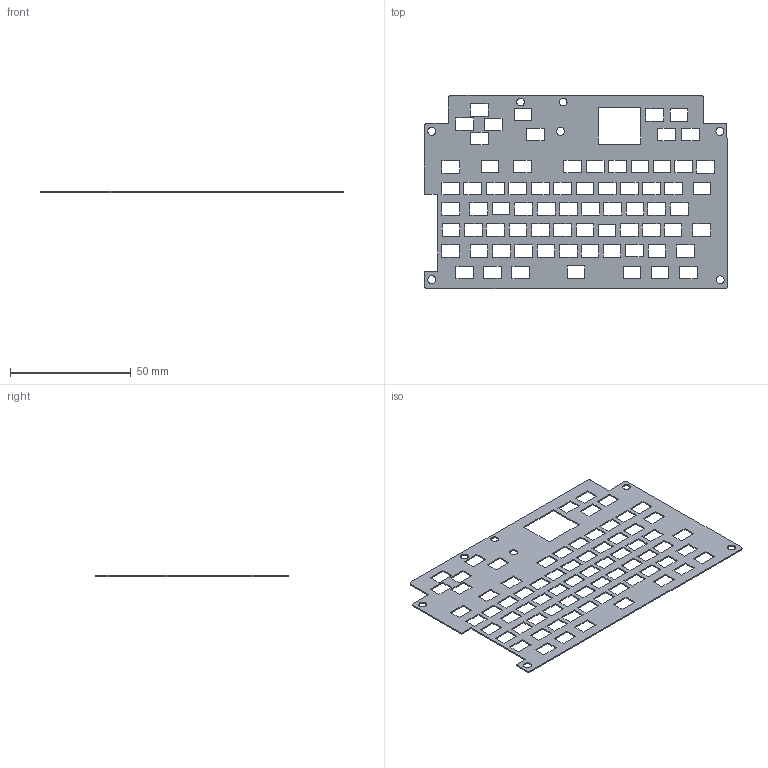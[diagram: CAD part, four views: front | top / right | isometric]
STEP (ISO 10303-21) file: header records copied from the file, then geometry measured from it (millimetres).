
FILE_DESCRIPTION(('HOOPS Exchange Step'),'2;1');
FILE_NAME('/private/var/mobile/Containers/Data/Application/21370062-73AE-4362-BE0B-05C62A030887/tmp/export/temp_export','2025-12-04T11:26:29+08:00',('mobile'),('Shapr3D Limited'),'HOOPS Exchange 2025.7','Shapr3D','Authorized');
FILE_SCHEMA( ('AP242_MANAGED_MODEL_BASED_3D_ENGINEERING_MIM_LF {1 0 10303 442 1 1 4}') );
Length unit declared in the file: millimetre
Products named in the file (2): 键盘膜4; root
Assembly tree (1 placements, depth 2):
  root
    键盘膜4
Bounding box: 125.56 x 80.03 x 0.5 mm (x, y, z)
Volume: 3271.8 mm3; surface area: 14277.1 mm2
Topology: 1 solids, 1 shells, 325 faces, 983 edges, 660 vertices
Faces by surface type: plane 311, cylinder 14
Full cylindrical faces by diameter (mm): 3.2 x2, 3.3 x5
Entity records: 11236 total; most frequent: CARTESIAN_POINT 1972, ORIENTED_EDGE 1966, DIRECTION 1683, EDGE_CURVE 983, VECTOR 941, LINE 941, VERTEX_POINT 660, EDGE_LOOP 487
